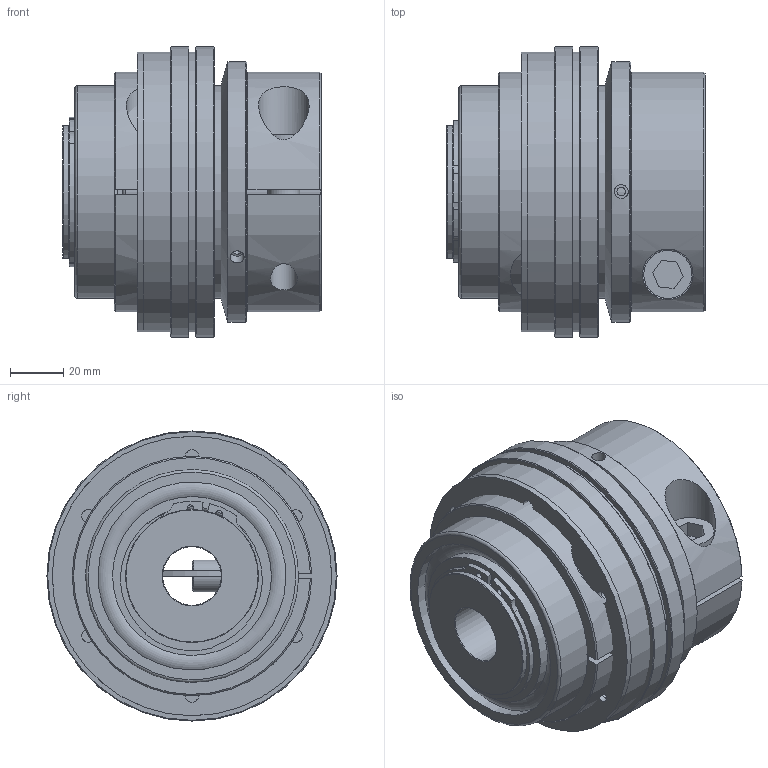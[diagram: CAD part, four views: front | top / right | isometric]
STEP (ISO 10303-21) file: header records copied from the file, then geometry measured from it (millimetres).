
FILE_DESCRIPTION( ( 'Unknown' ), '1' );
FILE_NAME( 'C:/Dokumente und Einstellungen/Sven/Desktop/hp kbk/KBK LL-K-200.stp', 'Unknown', ( 'Unknown' ), ( 'Unknown' ), 'XStep 1.0', 'Unknown', ' ' );
FILE_SCHEMA( ( 'automotive_design' ) );
Length unit declared in the file: millimetre
Products named in the file (13): Assem1; Assem2; Assem3; Zylinderschraube DIN 912_2; ball_bearing_-_6010_0_01; ball_bearing_-_6010_0_02; ball_bearing_-_6010_0_03; Klemmnabe 200; Stellring 200; Druckring 200; Flansch 200; a_50; KBK LL-K-200 Grundkörper
Bounding box: 97 x 109 x 109 mm (x, y, z)
Volume: 1097104.7 mm3; surface area: 333183.3 mm2
Topology: 28 solids, 28 shells, 361 faces, 752 edges, 487 vertices
Faces by surface type: cylinder 146, plane 132, cone 49, torus 34
Full cylindrical faces by diameter (mm): 2.5 x6, 3.242 x6, 4.917 x12, 5.2 x12, 10.106 x2, 12 x3, 12.5 x2, 18 x3, 19 x2, 22 x2, 45 x2, 47 x4, 50 x10, 59.7 x8, 62 x2, 66 x4, 70.6 x8, 72 x2, 77 x2, 80 x6, 90 x2, 98 x2, 105 x4, 109 x2
Entity records: 4304 total; most frequent: CARTESIAN_POINT 1098, DIRECTION 664, ORIENTED_EDGE 426, AXIS2_PLACEMENT_3D 307, EDGE_LOOP 272, EDGE_CURVE 213, FACE_OUTER_BOUND 203, VERTEX_POINT 181
